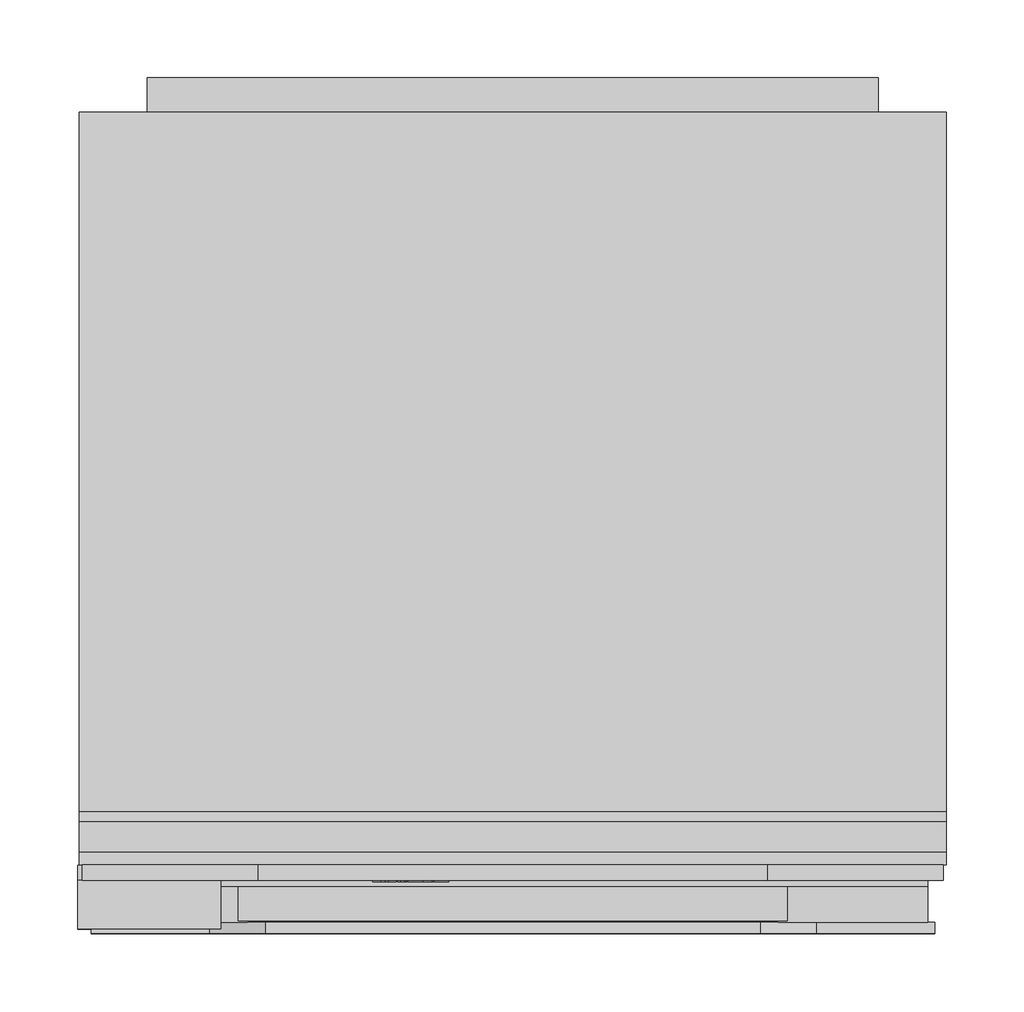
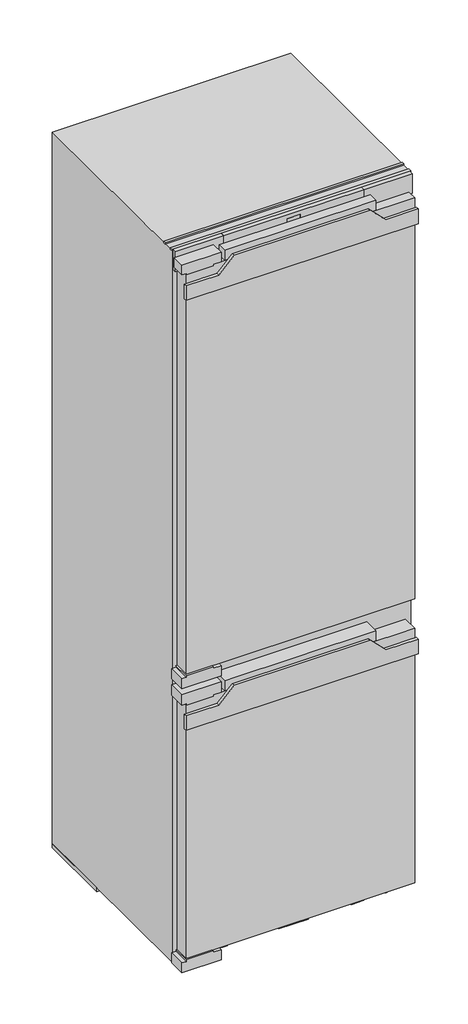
# Not in any storey: 1 proxy.
"""IFC4 building model written with IfcOpenShell, lengths in millimetres."""

from ifc_helpers import new_model, si_unit, origin, place, context, project, spatial, transform, mapped, element, save
from components import specialty_equipment_14b27e45

model = new_model("IFC4")

# Units and contexts
model_context = context("Model", 3, world=origin())
ifc_project = project(units=[si_unit("LENGTHUNIT", "METRE", prefix="MILLI")], contexts=[model_context])

# Site, building
site = spatial("IfcSite", under=ifc_project)
building = spatial("IfcBuilding", under=site)

# Proxy
placement = place(None, origin())
specialty_equipment_shape = specialty_equipment_14b27e45(model_context)
element("IfcBuildingElementProxy", 1, Name="11782010_CH_KFN7734D_LI : 38773410_CH_11782010_KFN7734D_LI", ObjectType="11782010_CH_KFN7734D_LI : 38773410_CH_11782010_KFN7734D_LI", at=placement, inside=building, context=model_context, shape_type="MappedRepresentation", body=[
    mapped(specialty_equipment_shape, transform((0.0, 0.0, 0.0), x_axis=(1.0, 0.0, 0.0), y_axis=(0.0, 1.0, 0.0), z_axis=(0.0, 0.0, 1.0))),
])

save(model, "model.ifc")
